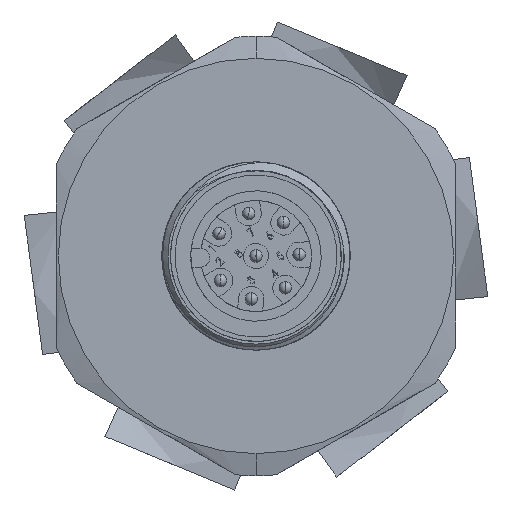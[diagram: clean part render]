
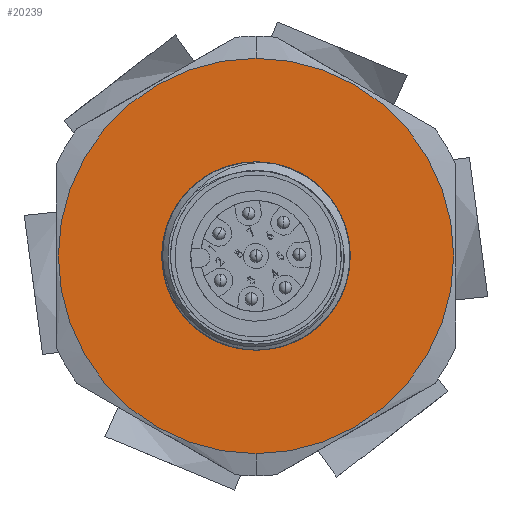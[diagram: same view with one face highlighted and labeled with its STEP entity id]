
A CAD part, left-side view. The second image highlights one B-rep face of the part: STEP entity #20239.
In plain terms, the highlighted planar face has unit normal (-1, 0, 0).
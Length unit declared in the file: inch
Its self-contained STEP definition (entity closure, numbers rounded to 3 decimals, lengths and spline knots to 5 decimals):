
#217 = ORIENTED_EDGE ( 'NONE', *, *, #33840, .F. ) ;
#1199 = DIRECTION ( 'NONE',  ( 0., 0., 1. ) ) ;
#3199 = CARTESIAN_POINT ( 'NONE',  ( 0.356, 0., -0.209 ) ) ;
#4097 = EDGE_CURVE ( 'NONE', #34088, #28747, #13936, .T. ) ;
#7082 = FACE_BOUND ( 'NONE', #17003, .T. ) ;
#7316 = DIRECTION ( 'NONE',  ( -1., 0., 0. ) ) ;
#7886 = CIRCLE ( 'NONE', #28237, 0.209 ) ;
#9987 = CIRCLE ( 'NONE', #21790, 0.209 ) ;
#10383 = ORIENTED_EDGE ( 'NONE', *, *, #27753, .T. ) ;
#10428 = DIRECTION ( 'NONE',  ( 1., 0., 0. ) ) ;
#11979 = AXIS2_PLACEMENT_3D ( 'NONE', #26568, #10428, #29298 ) ;
#13031 = PLANE ( 'NONE',  #11979 ) ;
#13244 = CARTESIAN_POINT ( 'NONE',  ( 0.356, 0., 0. ) ) ;
#13385 = CIRCLE ( 'NONE', #14326, 0.495 ) ;
#13478 = CARTESIAN_POINT ( 'NONE',  ( 0.356, 0., 0. ) ) ;
#13936 = CIRCLE ( 'NONE', #27389, 0.495 ) ;
#14326 = AXIS2_PLACEMENT_3D ( 'NONE', #33438, #17282, #1199 ) ;
#16164 = DIRECTION ( 'NONE',  ( 0., 0., 1. ) ) ;
#16445 = CARTESIAN_POINT ( 'NONE',  ( 0.356, 0., 0.209 ) ) ;
#17003 = EDGE_LOOP ( 'NONE', ( #217, #32038 ) ) ;
#17282 = DIRECTION ( 'NONE',  ( -1., 0., 0. ) ) ;
#17819 = CARTESIAN_POINT ( 'NONE',  ( 0.356, 0., -0.495 ) ) ;
#20239 = ADVANCED_FACE ( 'NONE', ( #7082, #28579 ), #13031, .F. ) ;
#21790 = AXIS2_PLACEMENT_3D ( 'NONE', #13478, #32335, #16164 ) ;
#21880 = EDGE_LOOP ( 'NONE', ( #10383, #31521 ) ) ;
#22852 = VERTEX_POINT ( 'NONE', #3199 ) ;
#23342 = CARTESIAN_POINT ( 'NONE',  ( 0.356, 0., 0.495 ) ) ;
#23422 = CARTESIAN_POINT ( 'NONE',  ( 0.356, 0., 0. ) ) ;
#23749 = DIRECTION ( 'NONE',  ( -1., 0., 0. ) ) ;
#24590 = DIRECTION ( 'NONE',  ( 0., 0., 1. ) ) ;
#26141 = DIRECTION ( 'NONE',  ( 0., 0., 1. ) ) ;
#26568 = CARTESIAN_POINT ( 'NONE',  ( 0.356, 0.209, 0. ) ) ;
#27389 = AXIS2_PLACEMENT_3D ( 'NONE', #13244, #23749, #24590 ) ;
#27753 = EDGE_CURVE ( 'NONE', #28747, #34088, #13385, .T. ) ;
#28237 = AXIS2_PLACEMENT_3D ( 'NONE', #23422, #7316, #26141 ) ;
#28579 = FACE_OUTER_BOUND ( 'NONE', #21880, .T. ) ;
#28747 = VERTEX_POINT ( 'NONE', #17819 ) ;
#29298 = DIRECTION ( 'NONE',  ( 0., 0., -1. ) ) ;
#30856 = EDGE_CURVE ( 'NONE', #22852, #32364, #7886, .T. ) ;
#31521 = ORIENTED_EDGE ( 'NONE', *, *, #4097, .T. ) ;
#32038 = ORIENTED_EDGE ( 'NONE', *, *, #30856, .F. ) ;
#32335 = DIRECTION ( 'NONE',  ( -1., 0., 0. ) ) ;
#32364 = VERTEX_POINT ( 'NONE', #16445 ) ;
#33438 = CARTESIAN_POINT ( 'NONE',  ( 0.356, 0., 0. ) ) ;
#33840 = EDGE_CURVE ( 'NONE', #32364, #22852, #9987, .T. ) ;
#34088 = VERTEX_POINT ( 'NONE', #23342 ) ;
